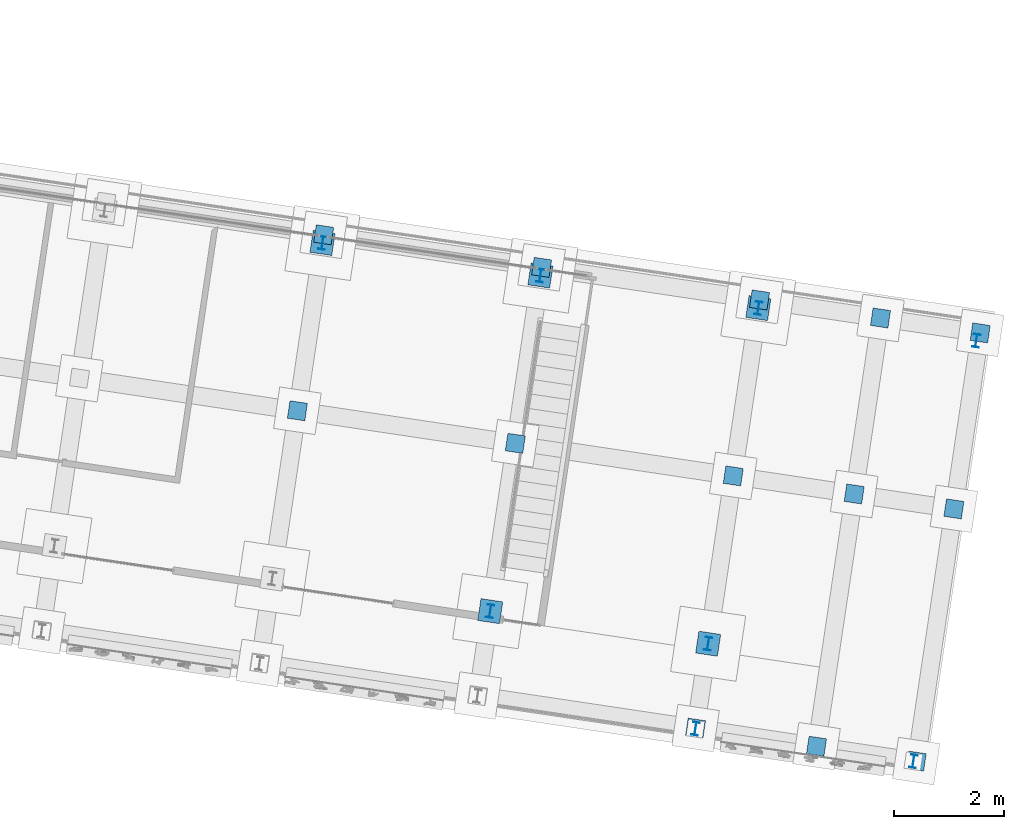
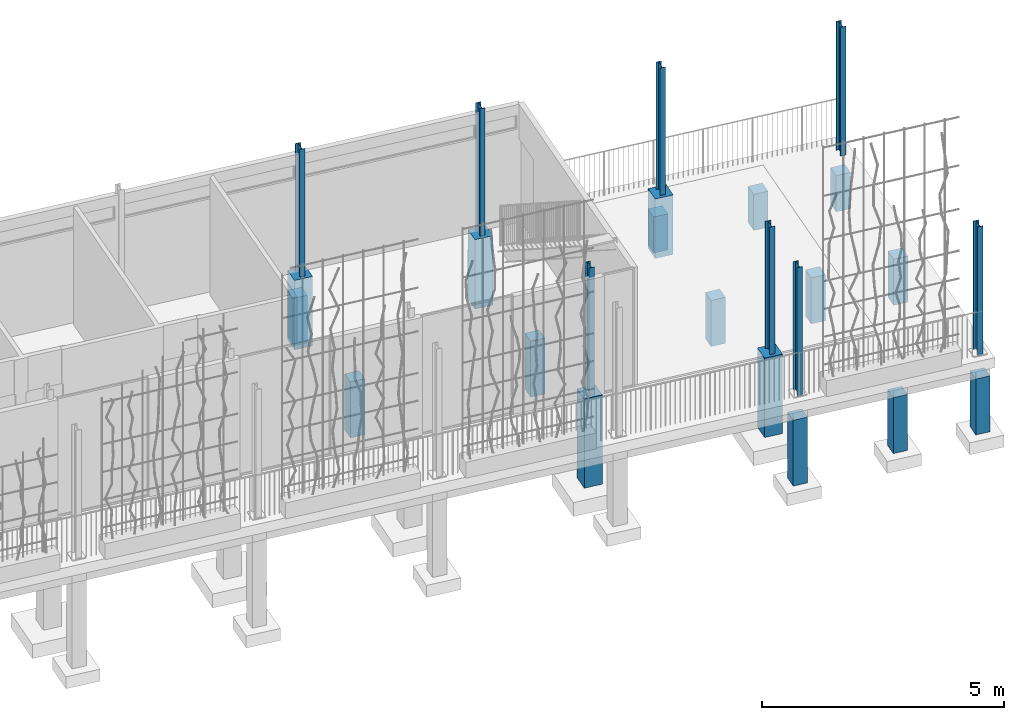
# One storey, part 6 of 143: 26 columns, 1 element without a shape of its own.
"""IFC4 building model written with IfcOpenShell, lengths in metres."""

from ifc_helpers import new_model, si_unit, direction, frame, origin_with_axes, place, context, subcontext, project, spatial, polyline, i_section, outline, extrude, material, material_profile, profile_set, profile_usage, type_object, element, aggregate, save


model = new_model("IFC4")

# Units and contexts
model_context = context("Model", 3, precision=1e-05, world=origin_with_axes(), true_north=direction((0.0, 1.0)))
body_context = subcontext(model_context, "Body", "Model", "MODEL_VIEW")
ifc_project = project(units=[si_unit("VOLUMEUNIT", "CUBIC_METRE"), si_unit("LENGTHUNIT", "METRE"), si_unit("AREAUNIT", "SQUARE_METRE")], contexts=[model_context])

# Site, building, storey
site_placement = place(None, origin_with_axes())
site = spatial("IfcSite", under=ifc_project, at=site_placement, Name="Lares · Rua das Mercês · artigo 4771")
building_placement = place(site_placement, frame((15.0, 9.7, 15.8), z_axis=(0.0, 0.0, 1.0), x_axis=(0.989015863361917, -0.147809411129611, 0.0)))
building = spatial("IfcBuilding", under=site, at=building_placement, Name="Casa Sobreposta")
storey_placement = place(building_placement, origin_with_axes())
storey = spatial("IfcBuildingStorey", under=building, at=storey_placement, Name="00 · Habitação e estacionamento", Elevation=15.8)

# Columns
ifc_material_1 = material(Name="Aço pintado / Stahl lackiert", Category="steel")
ifc_material_profile = material_profile(ifc_material_1, i_section(OverallWidth=0.12, OverallDepth=0.24, WebThickness=0.0062, FlangeThickness=0.0098))
ifc_profile_set = profile_set([ifc_material_profile], Name="IPE240")
ifc_profile_usage_1 = profile_usage(ifc_profile_set)
column_type = type_object("IfcColumnType", Name="IPE240 / steel", PredefinedType="NOTDEFINED", material=ifc_profile_set)
column_1_placement = place(storey_placement, frame((20.0, 6.28, 0.0), z_axis=(0.0, 0.0, 1.0), x_axis=(1.0, 0.0, 0.0)))
element("IfcColumn", 1, at=column_1_placement, inside=storey, type_object=column_type, material=ifc_profile_usage_1, Name="Pilar 6B · IPE240", context=body_context, shape_type="SweptSolid", body=[
    extrude(i_section(OverallWidth=0.12, OverallDepth=0.24, WebThickness=0.0062, FlangeThickness=0.0098), origin_with_axes(), (0.0, 0.0, 1.0), 3.208),
])
ifc_profile_usage_2 = profile_usage(ifc_profile_set)
column_2_placement = place(storey_placement, frame((24.0, 0.12, 0.0), z_axis=(0.0, 0.0, 1.0), x_axis=(1.0, 0.0, 0.0)))
element("IfcColumn", 2, at=column_2_placement, inside=storey, type_object=column_type, material=ifc_profile_usage_2, Name="Pilar 7A · IPE240", context=body_context, shape_type="SweptSolid", body=[
    extrude(i_section(OverallWidth=0.12, OverallDepth=0.24, WebThickness=0.0062, FlangeThickness=0.0098), origin_with_axes(), (0.0, 0.0, 1.0), 3.208),
])
ifc_profile_usage_3 = profile_usage(ifc_profile_set)
column_3_placement = place(storey_placement, frame((24.0, 6.28, 0.0), z_axis=(0.0, 0.0, 1.0), x_axis=(1.0, 0.0, 0.0)))
element("IfcColumn", 3, at=column_3_placement, inside=storey, type_object=column_type, material=ifc_profile_usage_3, Name="Pilar 7B · IPE240", context=body_context, shape_type="SweptSolid", body=[
    extrude(i_section(OverallWidth=0.12, OverallDepth=0.24, WebThickness=0.0062, FlangeThickness=0.0098), origin_with_axes(), (0.0, 0.0, 1.0), 3.208),
])
ifc_profile_usage_4 = profile_usage(ifc_profile_set)
column_4_placement = place(storey_placement, frame((28.0, 0.12, 0.0), z_axis=(0.0, 0.0, 1.0), x_axis=(1.0, 0.0, 0.0)))
element("IfcColumn", 4, at=column_4_placement, inside=storey, type_object=column_type, material=ifc_profile_usage_4, Name="Pilar 8A · IPE240", context=body_context, shape_type="SweptSolid", body=[
    extrude(i_section(OverallWidth=0.12, OverallDepth=0.24, WebThickness=0.0062, FlangeThickness=0.0098), origin_with_axes(), (0.0, 0.0, 1.0), 3.208),
])
ifc_profile_usage_5 = profile_usage(ifc_profile_set)
column_5_placement = place(storey_placement, frame((28.0, 6.28, 0.0), z_axis=(0.0, 0.0, 1.0), x_axis=(1.0, 0.0, 0.0)))
element("IfcColumn", 5, at=column_5_placement, inside=storey, type_object=column_type, material=ifc_profile_usage_5, Name="Pilar 8B · IPE240", context=body_context, shape_type="SweptSolid", body=[
    extrude(i_section(OverallWidth=0.12, OverallDepth=0.24, WebThickness=0.0062, FlangeThickness=0.0098), origin_with_axes(), (0.0, 0.0, 1.0), 3.208),
])
ifc_profile_usage_6 = profile_usage(ifc_profile_set)
column_6_placement = place(storey_placement, frame((28.0, -1.44, -0.04), z_axis=(0.0, 0.0, 1.0), x_axis=(1.0, 0.0, 0.0)))
element("IfcColumn", 6, at=column_6_placement, inside=storey, type_object=column_type, material=ifc_profile_usage_6, Name="Projeção estufa · pilar sul ao pódio", context=body_context, shape_type="SweptSolid", body=[
    extrude(i_section(OverallWidth=0.12, OverallDepth=0.24, WebThickness=0.0062, FlangeThickness=0.0098), origin_with_axes(), (0.0, 0.0, 1.0), 3.248),
])
ifc_profile_usage_7 = profile_usage(ifc_profile_set)
column_7_placement = place(storey_placement, frame((32.0, -1.44, -0.04), z_axis=(0.0, 0.0, 1.0), x_axis=(1.0, 0.0, 0.0)))
element("IfcColumn", 7, at=column_7_placement, inside=storey, type_object=column_type, material=ifc_profile_usage_7, Name="Projeção estufa · pilar sul ao pódio", context=body_context, shape_type="SweptSolid", body=[
    extrude(i_section(OverallWidth=0.12, OverallDepth=0.24, WebThickness=0.0062, FlangeThickness=0.0098), origin_with_axes(), (0.0, 0.0, 1.0), 3.248),
])
ifc_profile_usage_8 = profile_usage(ifc_profile_set)
column_8_placement = place(storey_placement, frame((32.0, 6.28, -0.04), z_axis=(0.0, 0.0, 1.0), x_axis=(1.0, 0.0, 0.0)))
element("IfcColumn", 8, at=column_8_placement, inside=storey, type_object=column_type, material=ifc_profile_usage_8, Name="Projeção estufa · pilar nascente norte", context=body_context, shape_type="SweptSolid", body=[
    extrude(i_section(OverallWidth=0.12, OverallDepth=0.24, WebThickness=0.0062, FlangeThickness=0.0098), origin_with_axes(), (0.0, 0.0, 1.0), 3.248),
])
ifc_material_2 = material(Name="Betão armado / Stahlbeton", Category="concrete")
column_9_placement = place(storey_placement, frame((0.0, 0.0, -1.75), z_axis=(0.0, 0.0, 1.0), x_axis=(1.0, 0.0, 0.0)))
element("IfcColumn", 9, at=column_9_placement, inside=storey, material=ifc_material_2, Name="Pedestal 6B · betão 400 x 400", context=body_context, shape_type="SweptSolid", body=[
    extrude(outline(polyline([(20.2, 6.08), (20.2, 6.48), (19.8, 6.48), (19.8, 6.08), (20.2, 6.08)])), origin_with_axes(), (0.0, 0.0, 1.0), 1.75),
])
column_10_placement = place(storey_placement, frame((0.0, 0.0, -2.25), z_axis=(0.0, 0.0, 1.0), x_axis=(1.0, 0.0, 0.0)))
element("IfcColumn", 10, at=column_10_placement, inside=storey, material=ifc_material_2, Name="Pedestal 7A · betão 400 x 400", context=body_context, shape_type="SweptSolid", body=[
    extrude(outline(polyline([(24.2, -0.08), (24.2, 0.32), (23.8, 0.32), (23.8, -0.08), (24.2, -0.08)])), origin_with_axes(), (0.0, 0.0, 1.0), 2.25),
])
column_11_placement = place(storey_placement, frame((0.0, 0.0, -1.75), z_axis=(0.0, 0.0, 1.0), x_axis=(1.0, 0.0, 0.0)))
element("IfcColumn", 11, at=column_11_placement, inside=storey, material=ifc_material_2, Name="Pedestal 7B · betão 400 x 400", context=body_context, shape_type="SweptSolid", body=[
    extrude(outline(polyline([(24.2, 6.08), (24.2, 6.48), (23.8, 6.48), (23.8, 6.08), (24.2, 6.08)])), origin_with_axes(), (0.0, 0.0, 1.0), 1.75),
])
column_12_placement = place(storey_placement, frame((0.0, 0.0, -2.0), z_axis=(0.0, 0.0, 1.0), x_axis=(1.0, 0.0, 0.0)))
element("IfcColumn", 12, at=column_12_placement, inside=storey, material=ifc_material_2, Name="Pedestal 8A · betão 400 x 400", context=body_context, shape_type="SweptSolid", body=[
    extrude(outline(polyline([(28.2, -0.08), (28.2, 0.32), (27.8, 0.32), (27.8, -0.08), (28.2, -0.08)])), origin_with_axes(), (0.0, 0.0, 1.0), 2.0),
])
column_13_placement = place(storey_placement, frame((0.0, 0.0, -1.5), z_axis=(0.0, 0.0, 1.0), x_axis=(1.0, 0.0, 0.0)))
element("IfcColumn", 13, at=column_13_placement, inside=storey, material=ifc_material_2, Name="Pedestal 8B · betão 400 x 400", context=body_context, shape_type="SweptSolid", body=[
    extrude(outline(polyline([(28.2, 6.08), (28.2, 6.48), (27.8, 6.48), (27.8, 6.08), (28.2, 6.08)])), origin_with_axes(), (0.0, 0.0, 1.0), 1.5),
])

# Assembly, columns
assembly_placement = place(storey_placement, origin_with_axes())
assembly = element("IfcElementAssembly", 14, at=assembly_placement, inside=storey, Name="Pódio · terraço, casa térrea e cisterna", ObjectType="CISTERN_PODIUM", PredefinedType="USERDEFINED")
column_14_placement = place(assembly_placement, frame((0.0, 0.0, -2.0), z_axis=(0.0, 0.0, 1.0), x_axis=(1.0, 0.0, 0.0)))
column_14 = element("IfcColumn", 15, at=column_14_placement, material=ifc_material_2, Name="Pódio suspenso · apoio sobre o terreno", context=body_context, shape_type="SweptSolid", body=[
    extrude(outline(polyline([(20.16, 3.04), (20.16, 3.36), (19.84, 3.36), (19.84, 3.04), (20.16, 3.04)])), origin_with_axes(), (0.0, 0.0, 1.0), 1.41),
])
column_15_placement = place(assembly_placement, frame((0.0, 0.0, -1.75), z_axis=(0.0, 0.0, 1.0), x_axis=(1.0, 0.0, 0.0)))
column_15 = element("IfcColumn", 16, at=column_15_placement, material=ifc_material_2, Name="Pódio suspenso · apoio sobre o terreno", context=body_context, shape_type="SweptSolid", body=[
    extrude(outline(polyline([(20.16, 6.27), (20.16, 6.59), (19.84, 6.59), (19.84, 6.27), (20.16, 6.27)])), origin_with_axes(), (0.0, 0.0, 1.0), 1.16),
])
column_16_placement = place(assembly_placement, frame((0.0, 0.0, -2.0), z_axis=(0.0, 0.0, 1.0), x_axis=(1.0, 0.0, 0.0)))
column_16 = element("IfcColumn", 17, at=column_16_placement, material=ifc_material_2, Name="Pódio suspenso · apoio sobre o terreno", context=body_context, shape_type="SweptSolid", body=[
    extrude(outline(polyline([(24.16, 3.04), (24.16, 3.36), (23.84, 3.36), (23.84, 3.04), (24.16, 3.04)])), origin_with_axes(), (0.0, 0.0, 1.0), 1.41),
])
column_17_placement = place(assembly_placement, frame((0.0, 0.0, -1.75), z_axis=(0.0, 0.0, 1.0), x_axis=(1.0, 0.0, 0.0)))
column_17 = element("IfcColumn", 18, at=column_17_placement, material=ifc_material_2, Name="Pódio suspenso · apoio sobre o terreno", context=body_context, shape_type="SweptSolid", body=[
    extrude(outline(polyline([(24.16, 6.27), (24.16, 6.59), (23.84, 6.59), (23.84, 6.27), (24.16, 6.27)])), origin_with_axes(), (0.0, 0.0, 1.0), 1.16),
])
column_18_placement = place(assembly_placement, frame((0.0, 0.0, -2.25), z_axis=(0.0, 0.0, 1.0), x_axis=(1.0, 0.0, 0.0)))
column_18 = element("IfcColumn", 19, at=column_18_placement, material=ifc_material_2, Name="Pódio suspenso · apoio sobre o terreno", context=body_context, shape_type="SweptSolid", body=[
    extrude(outline(polyline([(28.16, -1.59), (28.16, -1.27), (27.84, -1.27), (27.84, -1.59), (28.16, -1.59)])), origin_with_axes(), (0.0, 0.0, 1.0), 1.66),
])
column_19_placement = place(assembly_placement, frame((0.0, 0.0, -1.75), z_axis=(0.0, 0.0, 1.0), x_axis=(1.0, 0.0, 0.0)))
column_19 = element("IfcColumn", 20, at=column_19_placement, material=ifc_material_2, Name="Pódio suspenso · apoio sobre o terreno", context=body_context, shape_type="SweptSolid", body=[
    extrude(outline(polyline([(28.16, 3.04), (28.16, 3.36), (27.84, 3.36), (27.84, 3.04), (28.16, 3.04)])), origin_with_axes(), (0.0, 0.0, 1.0), 1.16),
])
column_20_placement = place(assembly_placement, frame((0.0, 0.0, -1.5), z_axis=(0.0, 0.0, 1.0), x_axis=(1.0, 0.0, 0.0)))
column_20 = element("IfcColumn", 21, at=column_20_placement, material=ifc_material_2, Name="Pódio suspenso · apoio sobre o terreno", context=body_context, shape_type="SweptSolid", body=[
    extrude(outline(polyline([(28.16, 6.27), (28.16, 6.59), (27.84, 6.59), (27.84, 6.27), (28.16, 6.27)])), origin_with_axes(), (0.0, 0.0, 1.0), 0.91),
])
column_21_placement = place(assembly_placement, frame((0.0, 0.0, -2.0), z_axis=(0.0, 0.0, 1.0), x_axis=(1.0, 0.0, 0.0)))
column_21 = element("IfcColumn", 22, at=column_21_placement, material=ifc_material_2, Name="Pódio suspenso · apoio sobre o terreno", context=body_context, shape_type="SweptSolid", body=[
    extrude(outline(polyline([(30.38, -1.59), (30.38, -1.27), (30.06, -1.27), (30.06, -1.59), (30.38, -1.59)])), origin_with_axes(), (0.0, 0.0, 1.0), 1.41),
])
column_22_placement = place(assembly_placement, frame((0.0, 0.0, -1.75), z_axis=(0.0, 0.0, 1.0), x_axis=(1.0, 0.0, 0.0)))
column_22 = element("IfcColumn", 23, at=column_22_placement, material=ifc_material_2, Name="Pódio suspenso · apoio sobre o terreno", context=body_context, shape_type="SweptSolid", body=[
    extrude(outline(polyline([(30.38, 3.04), (30.38, 3.36), (30.06, 3.36), (30.06, 3.04), (30.38, 3.04)])), origin_with_axes(), (0.0, 0.0, 1.0), 1.16),
])
column_23_placement = place(assembly_placement, frame((0.0, 0.0, -1.5), z_axis=(0.0, 0.0, 1.0), x_axis=(1.0, 0.0, 0.0)))
column_23 = element("IfcColumn", 24, at=column_23_placement, material=ifc_material_2, Name="Pódio suspenso · apoio sobre o terreno", context=body_context, shape_type="SweptSolid", body=[
    extrude(outline(polyline([(30.38, 6.27), (30.38, 6.59), (30.06, 6.59), (30.06, 6.27), (30.38, 6.27)])), origin_with_axes(), (0.0, 0.0, 1.0), 0.91),
])
column_24_placement = place(assembly_placement, frame((0.0, 0.0, -2.0), z_axis=(0.0, 0.0, 1.0), x_axis=(1.0, 0.0, 0.0)))
column_24 = element("IfcColumn", 25, at=column_24_placement, material=ifc_material_2, Name="Pódio suspenso · apoio sobre o terreno", context=body_context, shape_type="SweptSolid", body=[
    extrude(outline(polyline([(32.21, -1.59), (32.21, -1.27), (31.89, -1.27), (31.89, -1.59), (32.21, -1.59)])), origin_with_axes(), (0.0, 0.0, 1.0), 1.41),
])
column_25_placement = place(assembly_placement, frame((0.0, 0.0, -1.75), z_axis=(0.0, 0.0, 1.0), x_axis=(1.0, 0.0, 0.0)))
column_25 = element("IfcColumn", 26, at=column_25_placement, material=ifc_material_2, Name="Pódio suspenso · apoio sobre o terreno", context=body_context, shape_type="SweptSolid", body=[
    extrude(outline(polyline([(32.21, 3.04), (32.21, 3.36), (31.89, 3.36), (31.89, 3.04), (32.21, 3.04)])), origin_with_axes(), (0.0, 0.0, 1.0), 1.16),
])
column_26_placement = place(assembly_placement, frame((0.0, 0.0, -1.5), z_axis=(0.0, 0.0, 1.0), x_axis=(1.0, 0.0, 0.0)))
column_26 = element("IfcColumn", 27, at=column_26_placement, material=ifc_material_2, Name="Pódio suspenso · apoio sobre o terreno", context=body_context, shape_type="SweptSolid", body=[
    extrude(outline(polyline([(32.21, 6.27), (32.21, 6.59), (31.89, 6.59), (31.89, 6.27), (32.21, 6.27)])), origin_with_axes(), (0.0, 0.0, 1.0), 0.91),
])
aggregate(assembly, [column_14, column_15, column_16, column_17, column_18, column_19, column_20, column_21, column_22, column_23, column_24, column_25, column_26])

save(model, "model.ifc")
